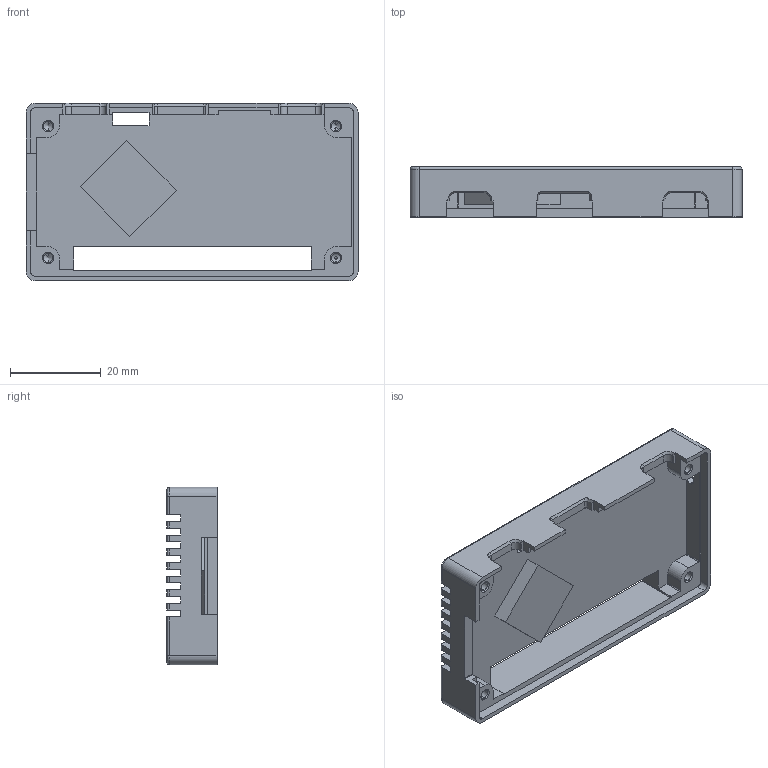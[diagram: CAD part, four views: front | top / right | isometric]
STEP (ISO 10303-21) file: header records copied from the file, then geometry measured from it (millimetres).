
FILE_DESCRIPTION (( 'STEP AP214' ), '1' );
FILE_NAME ('LubanCat zero W ¶¥¸Ç.STEP', '2024-09-14T02:13:29', ( '' ), ( '' ), 'SwSTEP 2.0', 'SolidWorks 2021', '' );
FILE_SCHEMA (( 'AUTOMOTIVE_DESIGN' ));
Length unit declared in the file: millimetre
Products named in the file (1): LubanCat zero W 階裔
Bounding box: 73 x 11 x 39 mm (x, y, z)
Volume: 12973.1 mm3; surface area: 12783.4 mm2
Topology: 1 solids, 1 shells, 223 faces, 624 edges, 398 vertices
Faces by surface type: plane 118, cylinder 72, cone 29, bspline 4
Entity records: 7595 total; most frequent: CARTESIAN_POINT 1466, ORIENTED_EDGE 1228, DIRECTION 1195, EDGE_CURVE 614, LINE 445, VECTOR 445, VERTEX_POINT 398, AXIS2_PLACEMENT_3D 375
